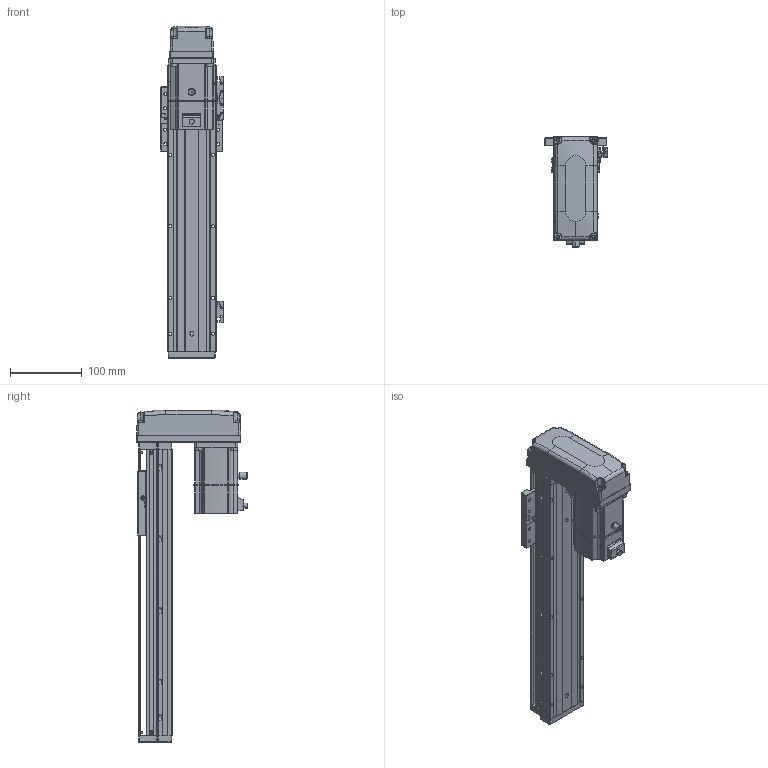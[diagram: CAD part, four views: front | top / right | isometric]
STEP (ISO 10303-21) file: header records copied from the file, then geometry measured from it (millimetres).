
FILE_DESCRIPTION (( 'STEP AP203' ), '1' );
FILE_NAME ('KTHAL60-250-BM-M20-C4L.step', '2022-12-16T02:09:49', ( '微软用户' ), ( '微软中国' ), 'SwSTEP 2.0', 'SolidWorks 2020', '' );
FILE_SCHEMA (( 'CONFIG_CONTROL_DESIGN' ));
Length unit declared in the file: millimetre
Products named in the file (17): GB¨uT 70.2-M3¡Á5_M3¡Á6; GBT 70.1-M3℅6; GBT 70.3-M3℅6; CTHA60-016; EE_SX911P_R; _X2_4E0983F1_X0_200W_1; KTHA60-001_400; CTHA60-017; CTHA60-015-4_CTHA60-015-4; KTHLA60-002; CTHA60-021; GTH80-026; KTHA60-004; GBT 70.1-M4×16; KTHAL60-250-BM-M20-C4L; KTHA60-005; GBT77-2000M3-3
Assembly tree (45 placements, depth 2):
  KTHAL60-250-BM-M20-C4L
    KTHA60-001_400
    KTHLA60-002
    KTHA60-004
    KTHA60-005
    GB¨uT 70.2-M3¡Á5_M3¡Á6  x5
    GBT 70.3-M3℅6  x4
    EE_SX911P_R  x3
    CTHA60-017  x3
    CTHA60-021  x2
    GBT 70.1-M4×16  x8
    GBT77-2000M3-3  x6
    GBT 70.1-M3℅6  x6
    CTHA60-016
    _X2_4E0983F1_X0_200W_1
    CTHA60-015-4_CTHA60-015-4
    GTH80-026
Bounding box: 87.82 x 155.2 x 464 mm (x, y, z)
Volume: 1513587.7 mm3; surface area: 309713.9 mm2
Topology: 48 solids, 48 shells, 2311 faces, 5492 edges, 3373 vertices
Faces by surface type: plane 1235, cylinder 611, cone 266, bspline 103, torus 82, sphere 14
Entity records: 44601 total; most frequent: CARTESIAN_POINT 10042, DIRECTION 6701, ORIENTED_EDGE 6608, EDGE_CURVE 3304, AXIS2_PLACEMENT_3D 2316, LINE 2069, VECTOR 2069, VERTEX_POINT 2057
